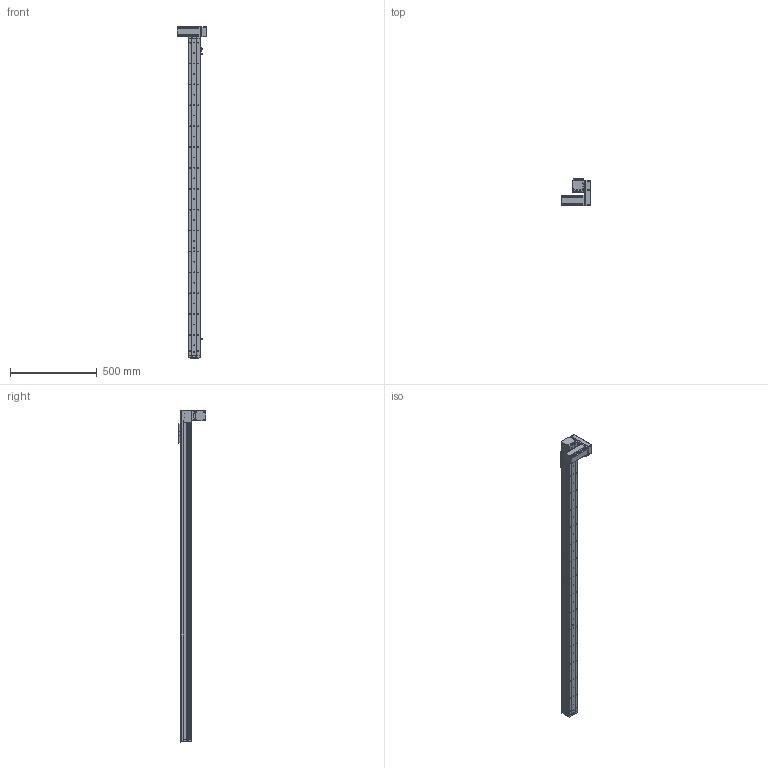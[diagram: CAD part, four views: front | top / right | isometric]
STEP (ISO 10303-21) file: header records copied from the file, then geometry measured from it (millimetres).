
FILE_DESCRIPTION (( 'STEP AP214' ), '1' );
FILE_NAME ('KSD68BS-S1650-MLD-CR.STEP', '2019-11-07T05:55:13', ( '微软用户' ), ( '微软中国' ), 'SwSTEP 2.0', 'SolidWorks 2014', '' );
FILE_SCHEMA (( 'AUTOMOTIVE_DESIGN' ));
Length unit declared in the file: millimetre
Products named in the file (14): KSD68BS-S1650-MLD-CR; 68遵裔啣揤啣1; 68宽单导轨全封闭丝杆传动安装板1防护罩; KSD68BS 1650行程侧板全封闭; 68宽单导轨全封闭同步带端板; 68单导轨全封闭同步带电机座左; 68单导轨全封闭同步带安装板; 悵誘欶奻狟殏; 68宽马达安装板连板上折同步带; 感应片68宽全封闭; U倰嫖萇EEㄜSX672; KSD68BS 1650行程盖板全封闭; 台达ECMA－C20604AS伺服电机（400W); KSD68BS 1650行程底板全封闭
Assembly tree (17 placements, depth 2):
  KSD68BS-S1650-MLD-CR
    KSD68BS 1650行程底板全封闭
    台达ECMA－C20604AS伺服电机（400W)
    U倰嫖萇EEㄜSX672  x3
    感应片68宽全封闭
    68宽马达安装板连板上折同步带
    悵誘欶奻狟殏
    68单导轨全封闭同步带安装板
    68单导轨全封闭同步带电机座左
    68宽单导轨全封闭同步带端板
    KSD68BS 1650行程侧板全封闭  x2
    68宽单导轨全封闭丝杆传动安装板1防护罩
    68遵裔啣揤啣1  x2
    KSD68BS 1650行程盖板全封闭
Bounding box: 167.2 x 155.5 x 1908.1 mm (x, y, z)
Volume: 3412034.5 mm3; surface area: 1385175.6 mm2
Topology: 18 solids, 18 shells, 1619 faces, 4669 edges, 2974 vertices
Faces by surface type: cylinder 798, plane 629, cone 192
Entity records: 53023 total; most frequent: CARTESIAN_POINT 9269, DIRECTION 7880, ORIENTED_EDGE 7542, EDGE_CURVE 3771, AXIS2_PLACEMENT_3D 2877, VERTEX_POINT 2472, VECTOR 2126, LINE 2126
